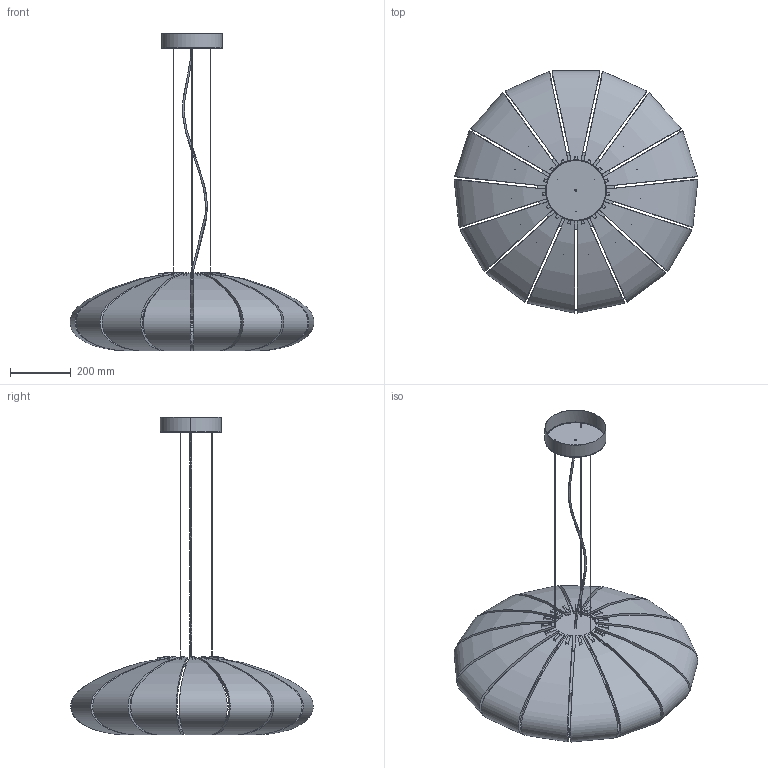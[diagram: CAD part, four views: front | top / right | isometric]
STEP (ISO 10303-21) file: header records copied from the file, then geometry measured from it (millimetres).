
FILE_DESCRIPTION(/* description */ (''),/* implementation_level */ '2;1');
FILE_NAME(/* name */ 'Pumpkin 800 STEP',/* time_stamp */ '2025-11-10T09:53:53+01:00',/* author */ (''),/* organization */ (''),/* preprocessor_version */ 'ST-DEVELOPER v16.5',/* originating_system */ 'Rhino 7.38',/* authorisation */ '');
FILE_SCHEMA (('CONFIG_CONTROL_DESIGN'));
Length unit declared in the file: millimetre
Products named in the file (1): Document
Bounding box: 799.26 x 794.88 x 1041.99 mm (x, y, z)
Volume: 13720660.8 mm3; surface area: 3665861.5 mm2
Topology: 37 solids, 37 shells, 320 faces, 731 edges, 486 vertices
Faces by surface type: plane 135, bspline 126, cylinder 59
Entity records: 51651 total; most frequent: CARTESIAN_POINT 47024, ORIENTED_EDGE 1462, EDGE_CURVE 731, VERTEX_POINT 486, EDGE_LOOP 321, ADVANCED_FACE 320, FACE_OUTER_BOUND 320, DIRECTION 198
